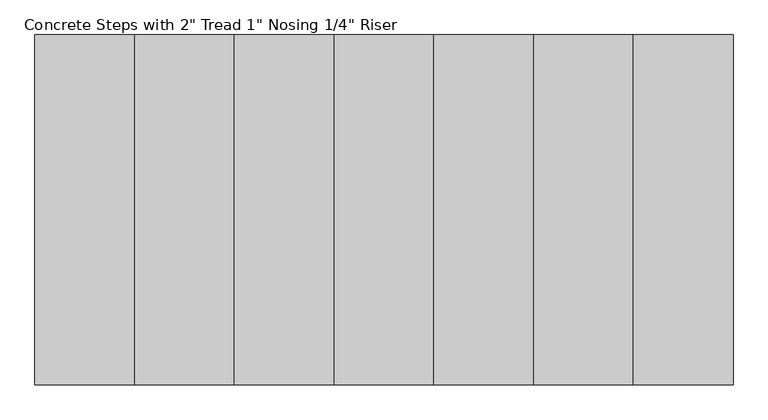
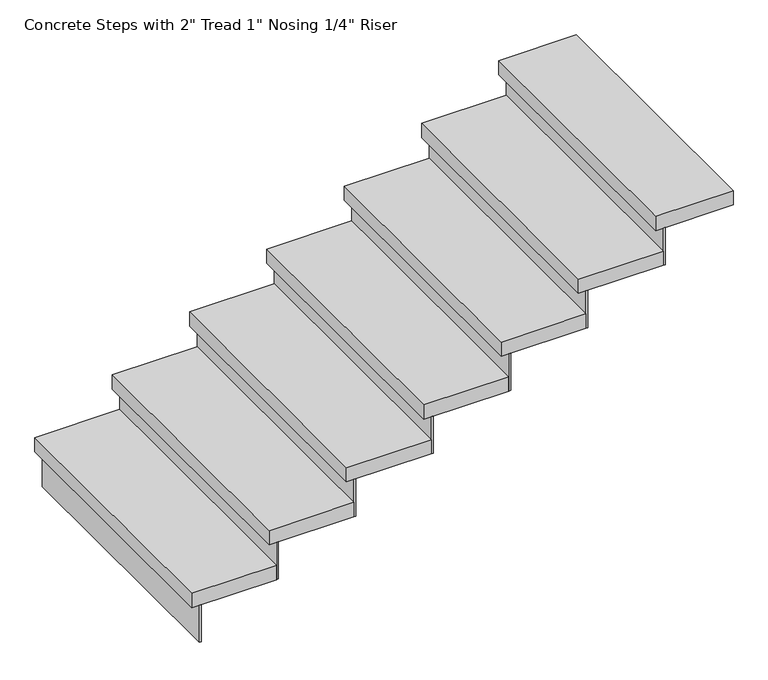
"""IFC4 building model written with IfcOpenShell, lengths in millimetres: stair flight geometry."""

from ifc_helpers import new_model, si_unit, frame, origin, place, context, project, spatial, polyline, outline, extrude, source, transform, mapped, element, save


def stair_flight_9462cd61(model_context):
    return source(origin(), model_context, "Body", "SweptSolid", [
        extrude(outline(polyline([(7000.1373344, -5698.5653686), (6993.7873344, -5698.5653686), (6993.7873344, -4784.1653686), (7000.1373344, -4784.1653686), (7000.1373344, -5698.5653686)])), frame((0.0, 0.0, 2069.5478261), z_axis=(0.0, 0.0, 1.0), x_axis=(1.0, 0.0, 0.0)), (0.0, 0.0, 1.0), 132.5217391),
        extrude(outline(polyline([(7254.1373344, -4784.1653686), (7254.1373344, -5698.5653686), (6968.3873344, -5698.5653686), (6968.3873344, -4784.1653686), (7254.1373344, -4784.1653686)])), frame((0.0, 0.0, 2202.0695652), z_axis=(0.0, 0.0, 1.0), x_axis=(1.0, 0.0, 0.0)), (0.0, 0.0, 1.0), 50.8),
        extrude(outline(polyline([(7260.4873344, -5698.5653686), (7254.1373344, -5698.5653686), (7254.1373344, -4784.1653686), (7260.4873344, -4784.1653686), (7260.4873344, -5698.5653686)])), frame((0.0, 0.0, 2202.0695652), z_axis=(0.0, 0.0, 1.0), x_axis=(1.0, 0.0, 0.0)), (0.0, 0.0, 1.0), 132.5217391),
        extrude(outline(polyline([(7514.4873344, -4784.1653686), (7514.4873344, -5698.5653686), (7228.7373344, -5698.5653686), (7228.7373344, -4784.1653686), (7514.4873344, -4784.1653686)])), frame((0.0, 0.0, 2334.5913043), z_axis=(0.0, 0.0, 1.0), x_axis=(1.0, 0.0, 0.0)), (0.0, 0.0, 1.0), 50.8),
        extrude(outline(polyline([(7520.8373344, -5698.5653686), (7514.4873344, -5698.5653686), (7514.4873344, -4784.1653686), (7520.8373344, -4784.1653686), (7520.8373344, -5698.5653686)])), frame((0.0, 0.0, 2334.5913043), z_axis=(0.0, 0.0, 1.0), x_axis=(1.0, 0.0, 0.0)), (0.0, 0.0, 1.0), 132.5217391),
        extrude(outline(polyline([(7774.8373344, -4784.1653686), (7774.8373344, -5698.5653686), (7489.0873344, -5698.5653686), (7489.0873344, -4784.1653686), (7774.8373344, -4784.1653686)])), frame((0.0, 0.0, 2467.1130435), z_axis=(0.0, 0.0, 1.0), x_axis=(1.0, 0.0, 0.0)), (0.0, 0.0, 1.0), 50.8),
        extrude(outline(polyline([(7781.1873344, -5698.5653686), (7774.8373344, -5698.5653686), (7774.8373344, -4784.1653686), (7781.1873344, -4784.1653686), (7781.1873344, -5698.5653686)])), frame((0.0, 0.0, 2467.1130435), z_axis=(0.0, 0.0, 1.0), x_axis=(1.0, 0.0, 0.0)), (0.0, 0.0, 1.0), 132.5217391),
        extrude(outline(polyline([(8035.1873344, -4784.1653686), (8035.1873344, -5698.5653686), (7749.4373344, -5698.5653686), (7749.4373344, -4784.1653686), (8035.1873344, -4784.1653686)])), frame((0.0, 0.0, 2599.6347826), z_axis=(0.0, 0.0, 1.0), x_axis=(1.0, 0.0, 0.0)), (0.0, 0.0, 1.0), 50.8),
        extrude(outline(polyline([(8041.5373344, -5698.5653686), (8035.1873344, -5698.5653686), (8035.1873344, -4784.1653686), (8041.5373344, -4784.1653686), (8041.5373344, -5698.5653686)])), frame((0.0, 0.0, 2599.6347826), z_axis=(0.0, 0.0, 1.0), x_axis=(1.0, 0.0, 0.0)), (0.0, 0.0, 1.0), 132.5217391),
        extrude(outline(polyline([(8295.5373344, -4784.1653686), (8295.5373344, -5698.5653686), (8009.7873344, -5698.5653686), (8009.7873344, -4784.1653686), (8295.5373344, -4784.1653686)])), frame((0.0, 0.0, 2732.1565217), z_axis=(0.0, 0.0, 1.0), x_axis=(1.0, 0.0, 0.0)), (0.0, 0.0, 1.0), 50.8),
        extrude(outline(polyline([(8301.8873344, -5698.5653686), (8295.5373344, -5698.5653686), (8295.5373344, -4784.1653686), (8301.8873344, -4784.1653686), (8301.8873344, -5698.5653686)])), frame((0.0, 0.0, 2732.1565217), z_axis=(0.0, 0.0, 1.0), x_axis=(1.0, 0.0, 0.0)), (0.0, 0.0, 1.0), 132.5217391),
        extrude(outline(polyline([(8555.8873344, -4784.1653686), (8555.8873344, -5698.5653686), (8270.1373344, -5698.5653686), (8270.1373344, -4784.1653686), (8555.8873344, -4784.1653686)])), frame((0.0, 0.0, 2864.6782609), z_axis=(0.0, 0.0, 1.0), x_axis=(1.0, 0.0, 0.0)), (0.0, 0.0, 1.0), 50.8),
        extrude(outline(polyline([(8562.2373344, -5698.5653686), (8555.8873344, -5698.5653686), (8555.8873344, -4784.1653686), (8562.2373344, -4784.1653686), (8562.2373344, -5698.5653686)])), frame((0.0, 0.0, 2864.6782609), z_axis=(0.0, 0.0, 1.0), x_axis=(1.0, 0.0, 0.0)), (0.0, 0.0, 1.0), 132.5217391),
        extrude(outline(polyline([(8790.8373344, -4784.1653686), (8790.8373344, -5698.5653686), (8530.4873344, -5698.5653686), (8530.4873344, -4784.1653686), (8790.8373344, -4784.1653686)])), frame((0.0, 0.0, 2997.2), z_axis=(0.0, 0.0, 1.0), x_axis=(1.0, 0.0, 0.0)), (0.0, 0.0, 1.0), 50.8),
    ])


if __name__ == "__main__":
    model = new_model("IFC4")
    model_context = context("Model", 3, world=origin())
    ifc_project = project(units=[si_unit("LENGTHUNIT", "METRE", prefix="MILLI")], contexts=[model_context])
    site = spatial("IfcSite", under=ifc_project)
    building = spatial("IfcBuilding", under=site)
    placement = place(None, origin())
    stair_flight_shape = stair_flight_9462cd61(model_context)
    element("IfcStairFlight", 1, ObjectType="Concrete Steps with 2\" Tread 1\" Nosing 1/4\" Riser", at=placement, inside=building, context=model_context, shape_type="MappedRepresentation", body=[
        mapped(stair_flight_shape, transform((0.0, 0.0, 0.0), x_axis=(1.0, 0.0, 0.0), y_axis=(0.0, 1.0, 0.0), z_axis=(0.0, 0.0, 1.0))),
    ])
    save(model, "model.ifc")
